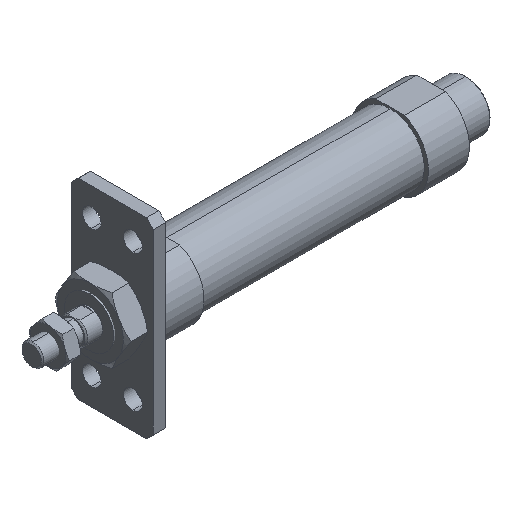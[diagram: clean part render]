
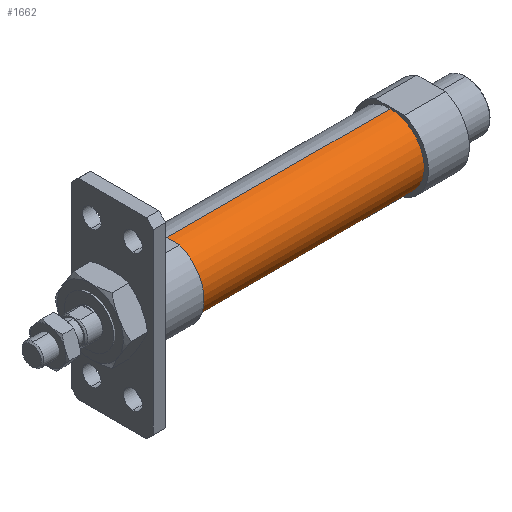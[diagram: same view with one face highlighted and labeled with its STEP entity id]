
A CAD part, isometric view. The second image highlights one B-rep face of the part: STEP entity #1662.
In plain terms, the highlighted cylindrical face has radius 12.5 mm (diameter 25 mm), a partial arc.
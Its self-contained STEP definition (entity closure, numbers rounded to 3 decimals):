
#13 = CARTESIAN_POINT ( 'NONE',  ( 49., 0., -12.5 ) ) ;
#217 = DIRECTION ( 'NONE',  ( -1., 0., 0. ) ) ;
#237 = EDGE_LOOP ( 'NONE', ( #2383, #3942, #960, #3917 ) ) ;
#320 = EDGE_CURVE ( 'NONE', #3586, #3922, #3140, .T. ) ;
#414 = CARTESIAN_POINT ( 'NONE',  ( 49., 0., 0. ) ) ;
#463 = FACE_OUTER_BOUND ( 'NONE', #237, .T. ) ;
#505 = CIRCLE ( 'NONE', #3112, 12.5 ) ;
#519 = VECTOR ( 'NONE', #781, 1000. ) ;
#616 = DIRECTION ( 'NONE',  ( 0., 0., 1. ) ) ;
#707 = CARTESIAN_POINT ( 'NONE',  ( 49., 0., 12.5 ) ) ;
#781 = DIRECTION ( 'NONE',  ( -1., 0., 0. ) ) ;
#795 = CARTESIAN_POINT ( 'NONE',  ( -6.469, 0., 0. ) ) ;
#960 = ORIENTED_EDGE ( 'NONE', *, *, #320, .T. ) ;
#1061 = DIRECTION ( 'NONE',  ( 0., 0., 1. ) ) ;
#1166 = VERTEX_POINT ( 'NONE', #13 ) ;
#1188 = VECTOR ( 'NONE', #2546, 1000. ) ;
#1198 = EDGE_CURVE ( 'NONE', #1166, #3922, #505, .T. ) ;
#1264 = DIRECTION ( 'NONE',  ( -1., 0., 0. ) ) ;
#1500 = LINE ( 'NONE', #3956, #1188 ) ;
#1596 = AXIS2_PLACEMENT_3D ( 'NONE', #2433, #1264, #1061 ) ;
#1662 = ADVANCED_FACE ( 'NONE', ( #463 ), #2547, .T. ) ;
#1952 = DIRECTION ( 'NONE',  ( 0., 0., 1. ) ) ;
#2101 = EDGE_CURVE ( 'NONE', #3460, #3586, #3794, .T. ) ;
#2383 = ORIENTED_EDGE ( 'NONE', *, *, #3793, .F. ) ;
#2433 = CARTESIAN_POINT ( 'NONE',  ( 131., 0., 0. ) ) ;
#2546 = DIRECTION ( 'NONE',  ( -1., 0., 0. ) ) ;
#2547 = CYLINDRICAL_SURFACE ( 'NONE', #3036, 12.5 ) ;
#2616 = DIRECTION ( 'NONE',  ( -1., 0., 0. ) ) ;
#3036 = AXIS2_PLACEMENT_3D ( 'NONE', #795, #217, #1952 ) ;
#3112 = AXIS2_PLACEMENT_3D ( 'NONE', #414, #2616, #616 ) ;
#3140 = LINE ( 'NONE', #3481, #519 ) ;
#3308 = CARTESIAN_POINT ( 'NONE',  ( 131., 0., 12.5 ) ) ;
#3460 = VERTEX_POINT ( 'NONE', #3580 ) ;
#3481 = CARTESIAN_POINT ( 'NONE',  ( -6.469, 0., 12.5 ) ) ;
#3580 = CARTESIAN_POINT ( 'NONE',  ( 131., 0., -12.5 ) ) ;
#3586 = VERTEX_POINT ( 'NONE', #3308 ) ;
#3793 = EDGE_CURVE ( 'NONE', #3460, #1166, #1500, .T. ) ;
#3794 = CIRCLE ( 'NONE', #1596, 12.5 ) ;
#3917 = ORIENTED_EDGE ( 'NONE', *, *, #1198, .F. ) ;
#3922 = VERTEX_POINT ( 'NONE', #707 ) ;
#3942 = ORIENTED_EDGE ( 'NONE', *, *, #2101, .T. ) ;
#3956 = CARTESIAN_POINT ( 'NONE',  ( -6.469, 0., -12.5 ) ) ;
